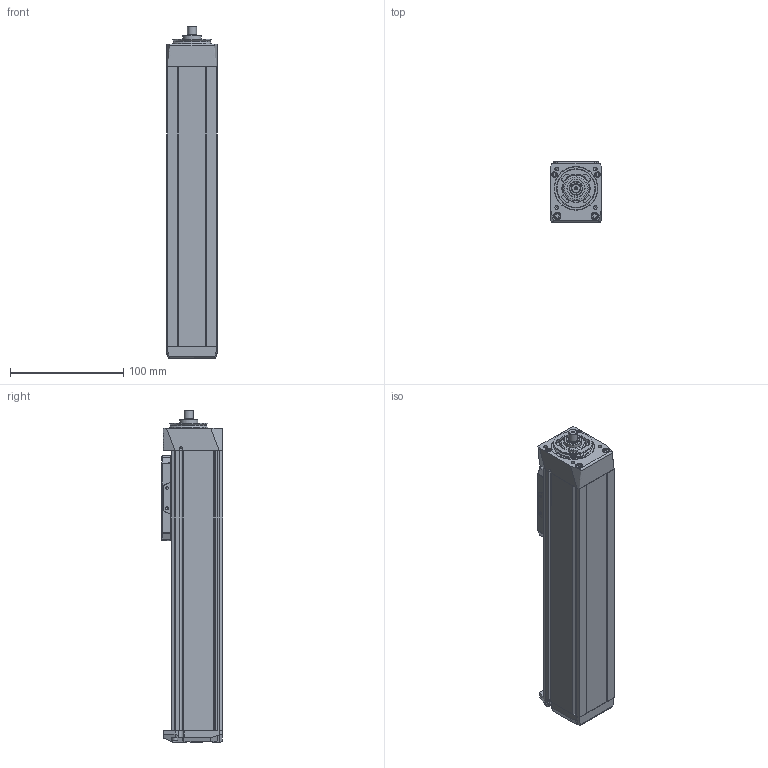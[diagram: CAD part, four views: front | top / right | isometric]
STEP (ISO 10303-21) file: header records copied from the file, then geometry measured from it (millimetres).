
FILE_DESCRIPTION(/* description */ ('STEP AP214'),/* implementation_level */ '2;1');
FILE_NAME(/* name */ 'MGBS 45 1003 150(0)',/* time_stamp */ '2023-04-12T11:05:33+02:00',/* author */ ('License CC BY-ND 4.0'),/* organization */ ('CADENAS'),/* preprocessor_version */ 'ST-DEVELOPER v19.3',/* originating_system */ 'PARTsolutions',/* authorisation */ ' ');
FILE_SCHEMA (('AUTOMOTIVE_DESIGN {1 0 10303 214 3 1 1}'));
Length unit declared in the file: millimetre
Products named in the file (6): MGBS 45 1003 150(0); MGBS 45 150_protection_strip; MGBS 45_carriage; MGBS 45_end_block; MGBS 45 150_profile; MGBS 45_drive_block
Assembly tree (5 placements, depth 2):
  MGBS 45 1003 150(0)
    MGBS 45 150_protection_strip
    MGBS 45_carriage
    MGBS 45_end_block
    MGBS 45 150_profile
    MGBS 45_drive_block
Bounding box: 45 x 54 x 293 mm (x, y, z)
Volume: 567610.5 mm3; surface area: 102568 mm2
Topology: 5 solids, 5 shells, 655 faces, 1721 edges, 1113 vertices
Faces by surface type: plane 312, cylinder 156, cone 94, bspline 64, torus 27, sphere 2
Full cylindrical faces by diameter (mm): 1 x1, 1.755 x4, 2.459 x6, 2.46 x2, 2.5 x8, 3 x4, 3.242 x8, 3.8 x6, 4 x2, 4.5 x4, 5 x2, 5.5 x4, 6.5 x4, 8 x1, 11 x2, 16 x1, 24.5 x1, 34 x2, 38.2 x1
Entity records: 23967 total; most frequent: CARTESIAN_POINT 4130, DIRECTION 3272, ORIENTED_EDGE 3064, EDGE_CURVE 1532, AXIS2_PLACEMENT_3D 1183, VERTEX_POINT 1095, LINE 906, VECTOR 906
